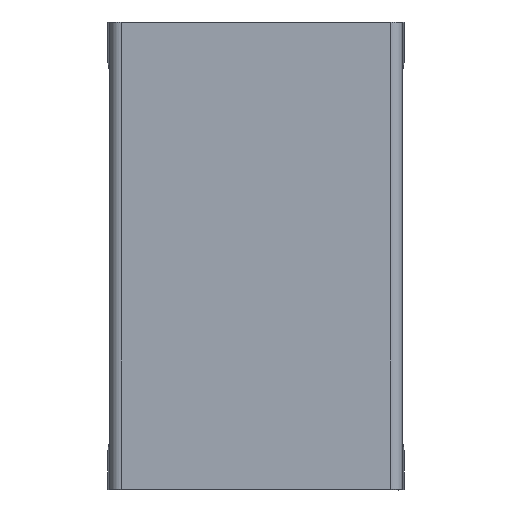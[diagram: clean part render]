
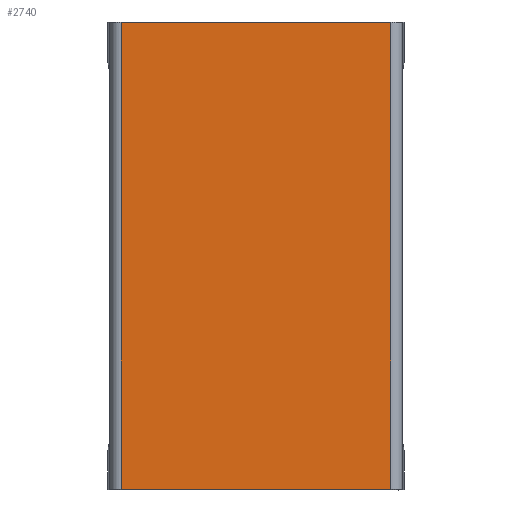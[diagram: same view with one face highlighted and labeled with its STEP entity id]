
A CAD part, top view. The second image highlights one B-rep face of the part: STEP entity #2740.
In plain terms, the highlighted planar face has unit normal (0, 0, 1).
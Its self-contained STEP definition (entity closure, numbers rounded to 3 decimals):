
#1848=CARTESIAN_POINT('',(-415.213,719.,19.0));
#1849=VERTEX_POINT('',#1848);
#1874=CARTESIAN_POINT('',(415.213,719.0,19.0));
#1875=VERTEX_POINT('',#1874);
#1876=CARTESIAN_POINT('',(-415.213,719.0,19.0));
#1877=DIRECTION('',(1.0,0.0,0.0));
#1878=VECTOR('',#1877,830.426);
#1879=LINE('',#1876,#1878);
#1880=EDGE_CURVE('',#1849,#1875,#1879,.T.);
#2337=CARTESIAN_POINT('',(415.213,-719.,19.0));
#2338=VERTEX_POINT('',#2337);
#2371=CARTESIAN_POINT('',(-415.213,-719.,19.0));
#2372=VERTEX_POINT('',#2371);
#2373=CARTESIAN_POINT('',(415.213,-719.,19.0));
#2374=DIRECTION('',(-1.0,0.0,0.0));
#2375=VECTOR('',#2374,830.426);
#2376=LINE('',#2373,#2375);
#2377=EDGE_CURVE('',#2338,#2372,#2376,.T.);
#2708=CARTESIAN_POINT('',(415.213,-719.,19.0));
#2709=DIRECTION('',(0.0,1.0,0.0));
#2710=VECTOR('',#2709,1438.);
#2711=LINE('',#2708,#2710);
#2712=EDGE_CURVE('',#2338,#1875,#2711,.T.);
#2724=CARTESIAN_POINT('',(0.,0.,19.0));
#2725=DIRECTION('',(0.0,0.0,1.0));
#2726=DIRECTION('',(1.0,0.0,0.0));
#2727=AXIS2_PLACEMENT_3D('',#2724,#2725,#2726);
#2728=PLANE('',#2727);
#2729=ORIENTED_EDGE('',*,*,#1880,.F.);
#2730=CARTESIAN_POINT('',(-415.213,719.,19.0));
#2731=DIRECTION('',(0.0,-1.0,0.0));
#2732=VECTOR('',#2731,1438.0);
#2733=LINE('',#2730,#2732);
#2734=EDGE_CURVE('',#1849,#2372,#2733,.T.);
#2735=ORIENTED_EDGE('',*,*,#2734,.T.);
#2736=ORIENTED_EDGE('',*,*,#2377,.F.);
#2737=ORIENTED_EDGE('',*,*,#2712,.T.);
#2738=EDGE_LOOP('',(#2729,#2735,#2736,#2737));
#2739=FACE_OUTER_BOUND('',#2738,.T.);
#2740=ADVANCED_FACE('',(#2739),#2728,.T.);
